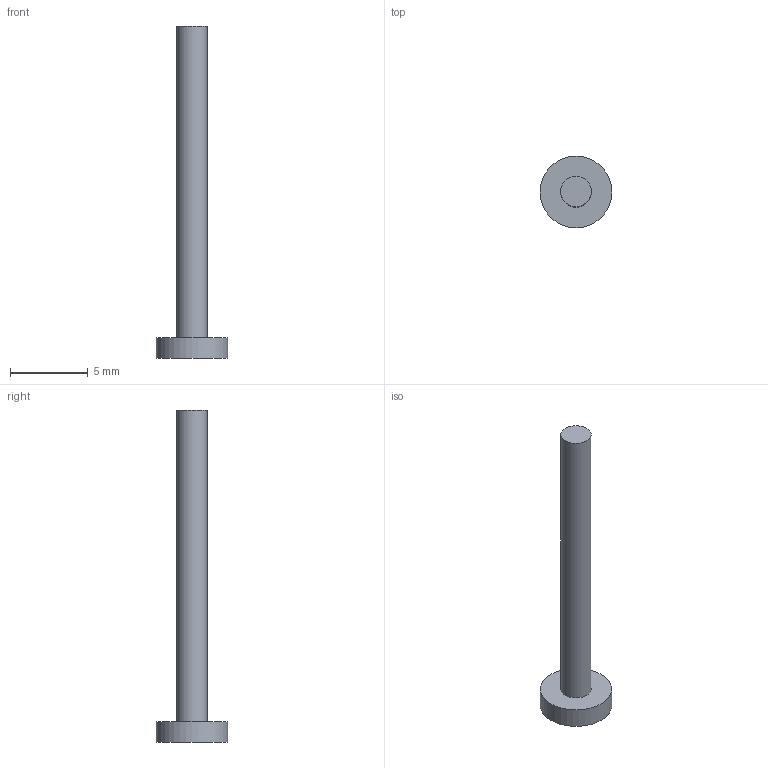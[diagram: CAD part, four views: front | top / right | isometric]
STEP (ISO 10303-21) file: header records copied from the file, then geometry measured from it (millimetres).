
FILE_DESCRIPTION(('Open CASCADE Model'),'2;1');
FILE_NAME('Open CASCADE Shape Model','2026-09-08T13:32:07',('Author'),( 'Open CASCADE'),'Open CASCADE STEP processor 7.7','Open CASCADE 7.7' ,'Unknown');
FILE_SCHEMA(('AUTOMOTIVE_DESIGN { 1 0 10303 214 1 1 1 1 }'));
Length unit declared in the file: millimetre
Products named in the file (1): Open CASCADE STEP translator 7.7 25
Bounding box: 4.6 x 4.6 x 21.3 mm (x, y, z)
Volume: 80.9 mm3; surface area: 178.3 mm2
Topology: 1 solids, 1 shells, 12 faces, 24 edges, 16 vertices
Faces by surface type: plane 10, cylinder 2
Full cylindrical faces by diameter (mm): 1.96 x1, 4.6 x1
Entity records: 634 total; most frequent: DIRECTION 102, CARTESIAN_POINT 101, LINE 64, VECTOR 64, ORIENTED_EDGE 48, PCURVE 48, DEFINITIONAL_REPRESENTATION 48, EDGE_CURVE 24
